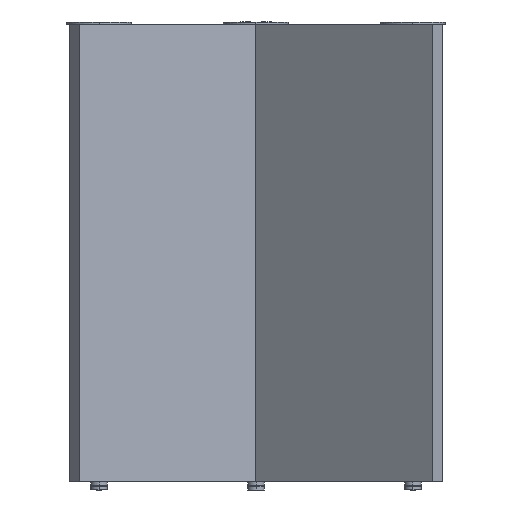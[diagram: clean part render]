
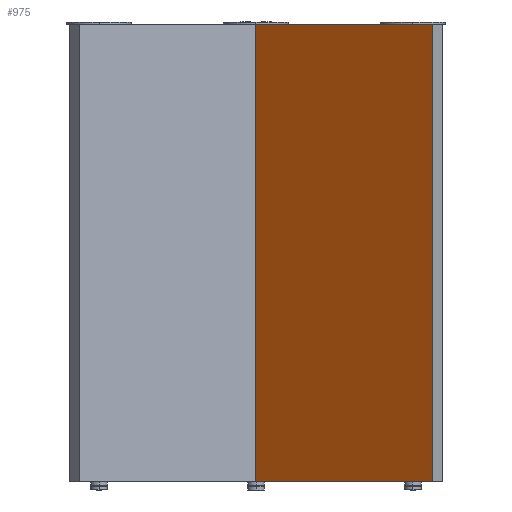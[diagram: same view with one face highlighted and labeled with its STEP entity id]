
A CAD part, left-side view. The second image highlights one B-rep face of the part: STEP entity #975.
In plain terms, the highlighted planar face has unit normal (-0.777, 0.629, 0).
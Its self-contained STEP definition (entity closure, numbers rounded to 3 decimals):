
#975=ADVANCED_FACE('',(#1327),#4855,.T.);
#1327=FACE_OUTER_BOUND('',#1679,.T.);
#1679=EDGE_LOOP('',(#2115,#2116,#2117,#2118));
#2115=ORIENTED_EDGE('',*,*,#3507,.T.);
#2116=ORIENTED_EDGE('',*,*,#3508,.T.);
#2117=ORIENTED_EDGE('',*,*,#3509,.F.);
#2118=ORIENTED_EDGE('',*,*,#3510,.F.);
#3507=EDGE_CURVE('',#4411,#4412,#4203,.T.);
#3508=EDGE_CURVE('',#4412,#4413,#4204,.T.);
#3509=EDGE_CURVE('',#4414,#4413,#4205,.T.);
#3510=EDGE_CURVE('',#4411,#4414,#4206,.T.);
#4203=B_SPLINE_CURVE_WITH_KNOTS('',1,(#5210,#5211),.UNSPECIFIED.,.F.,.F.,
(2,2),(0.,316.418),.UNSPECIFIED.);
#4204=B_SPLINE_CURVE_WITH_KNOTS('',1,(#5212,#5213),.UNSPECIFIED.,.F.,.F.,
(2,2),(0.,700.),.UNSPECIFIED.);
#4205=B_SPLINE_CURVE_WITH_KNOTS('',1,(#5214,#5215),.UNSPECIFIED.,.F.,.F.,
(2,2),(0.,316.418),.UNSPECIFIED.);
#4206=B_SPLINE_CURVE_WITH_KNOTS('',1,(#5216,#5217),.UNSPECIFIED.,.F.,.F.,
(2,2),(0.,700.),.UNSPECIFIED.);
#4411=VERTEX_POINT('',#5202);
#4412=VERTEX_POINT('',#5203);
#4413=VERTEX_POINT('',#5204);
#4414=VERTEX_POINT('',#5205);
#4855=PLANE('',#4979);
#4979=AXIS2_PLACEMENT_3D('',#5196,#5087,$);
#5087=DIRECTION('',(-0.777,0.629,0.));
#5196=CARTESIAN_POINT('',(1712.868,99.036,9.5));
#5202=CARTESIAN_POINT('',(1712.868,99.036,9.5));
#5203=CARTESIAN_POINT('',(1494.312,-170.859,9.5));
#5204=CARTESIAN_POINT('',(1494.312,-170.859,709.5));
#5205=CARTESIAN_POINT('',(1712.868,99.036,709.5));
#5210=CARTESIAN_POINT('',(1712.868,99.036,9.5));
#5211=CARTESIAN_POINT('',(1494.312,-170.859,9.5));
#5212=CARTESIAN_POINT('',(1494.312,-170.859,9.5));
#5213=CARTESIAN_POINT('',(1494.312,-170.859,709.5));
#5214=CARTESIAN_POINT('',(1712.868,99.036,709.5));
#5215=CARTESIAN_POINT('',(1494.312,-170.859,709.5));
#5216=CARTESIAN_POINT('',(1712.868,99.036,9.5));
#5217=CARTESIAN_POINT('',(1712.868,99.036,709.5));
